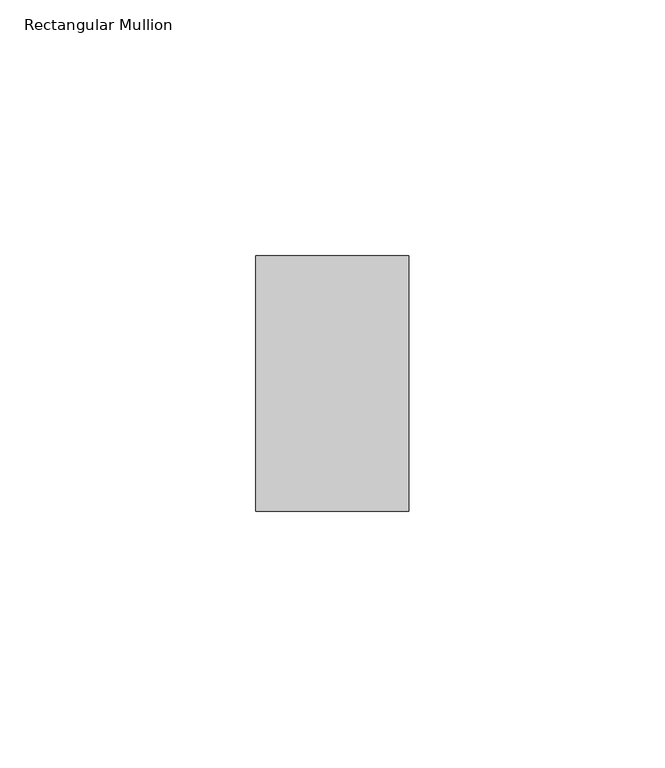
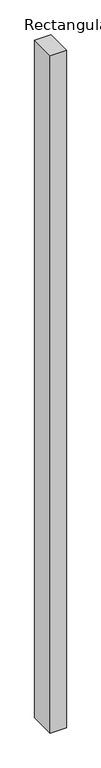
"""IFC4 building model written with IfcOpenShell, lengths in millimetres: member geometry, Rectangular Mullion : ARQ_TV_MULL_50x30mm."""

from ifc_helpers import new_model, si_unit, frame, origin, place, context, project, spatial, polyline, outline, extrude, source, transform, mapped, element, save


def rectangular_mullion_43c86492(model_context):
    return source(origin(), model_context, "Body", "SweptSolid", [
        extrude(outline(polyline([(0.0, 25.0), (0.0, -25.0), (-30.0, -25.0), (-30.0, 25.0), (0.0, 25.0)])), frame((0.0, 0.0, -1332.6051983), z_axis=(0.0, 0.0, 1.0), x_axis=(1.0, 0.0, 0.0)), (0.0, 0.0, 1.0), 1332.6051983),
    ])


if __name__ == "__main__":
    model = new_model("IFC4")
    model_context = context("Model", 3, world=origin())
    ifc_project = project(units=[si_unit("LENGTHUNIT", "METRE", prefix="MILLI")], contexts=[model_context])
    site = spatial("IfcSite", under=ifc_project)
    building = spatial("IfcBuilding", under=site)
    placement = place(None, origin())
    rectangular_mullion_shape = rectangular_mullion_43c86492(model_context)
    element("IfcMember", 1, ObjectType="Rectangular Mullion : ARQ_TV_MULL_50x30mm", at=placement, inside=building, context=model_context, shape_type="MappedRepresentation", body=[
        mapped(rectangular_mullion_shape, transform((0.0, 0.0, 0.0), x_axis=(1.0, 0.0, 0.0), y_axis=(0.0, 1.0, 0.0), z_axis=(0.0, 0.0, 1.0))),
    ])
    save(model, "model.ifc")
